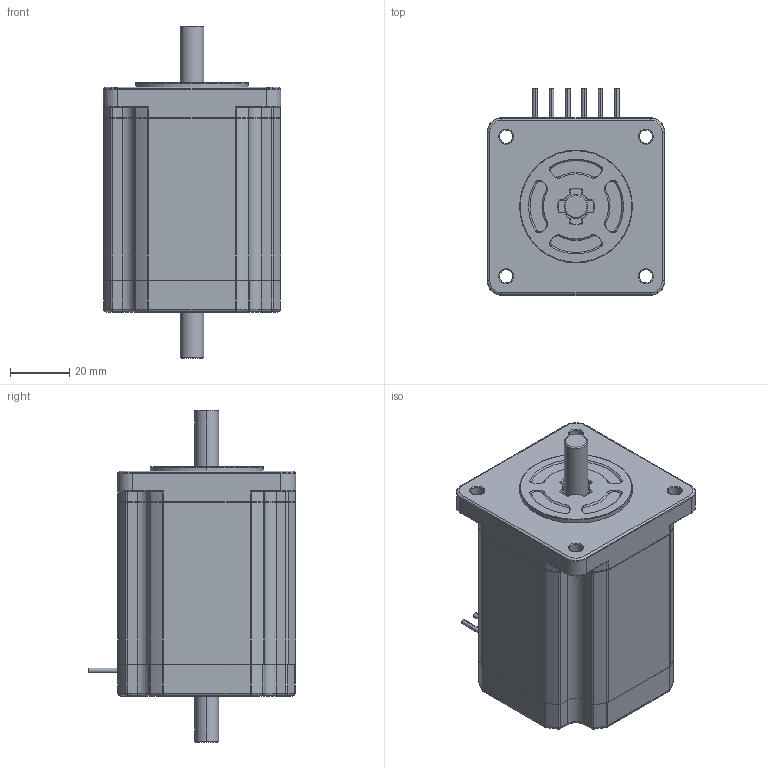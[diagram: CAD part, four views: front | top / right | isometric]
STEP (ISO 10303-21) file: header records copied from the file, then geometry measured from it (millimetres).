
FILE_DESCRIPTION (( 'STEP AP203' ), '1' );
FILE_NAME ('SH1603-0410.STEP', '2019-10-02T01:03:18', ( 'sanyodenki-admin' ), ( '' ), 'SwSTEP 2.0', 'SolidWorks 2017', '' );
FILE_SCHEMA (( 'CONFIG_CONTROL_DESIGN' ));
Length unit declared in the file: millimetre
Products named in the file (1): SH1603-0410
Bounding box: 60 x 70 x 112.1 mm (x, y, z)
Volume: 242838.1 mm3; surface area: 25496.5 mm2
Topology: 1 solids, 1 shells, 507 faces, 1208 edges, 710 vertices
Faces by surface type: cylinder 165, plane 152, cone 112, bspline 46, torus 32
Entity records: 16023 total; most frequent: CARTESIAN_POINT 4650, ORIENTED_EDGE 2388, DIRECTION 2338, EDGE_CURVE 1194, AXIS2_PLACEMENT_3D 910, VERTEX_POINT 710, EDGE_LOOP 536, LINE 518
